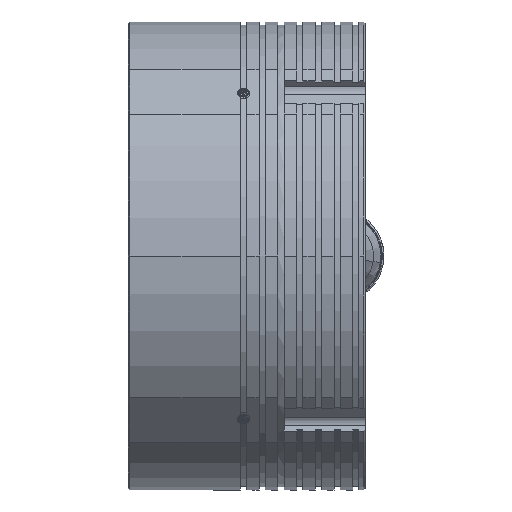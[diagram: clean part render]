
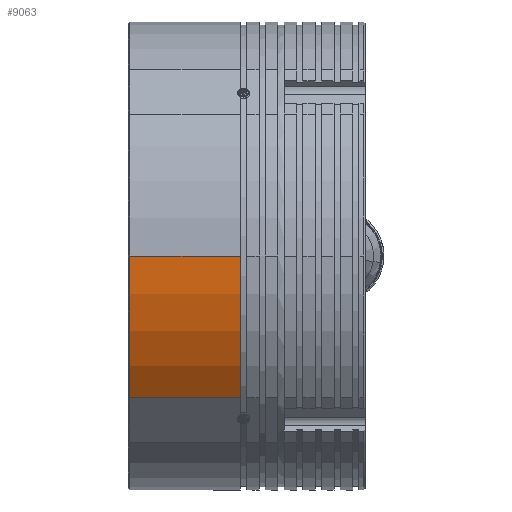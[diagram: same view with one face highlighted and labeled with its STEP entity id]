
A CAD part, left-side view. The second image highlights one B-rep face of the part: STEP entity #9063.
In plain terms, the highlighted cylindrical face has radius 37.5 mm (diameter 75 mm), a partial arc.
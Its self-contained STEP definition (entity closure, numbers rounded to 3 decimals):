
#900 = CIRCLE ( 'NONE', #22142, 37.5 ) ;
#6968 = ORIENTED_EDGE ( 'NONE', *, *, #49364, .T. ) ;
#7760 = CARTESIAN_POINT ( 'NONE',  ( 0., 5., 0. ) ) ;
#8956 = VERTEX_POINT ( 'NONE', #17940 ) ;
#9063 = ADVANCED_FACE ( 'NONE', ( #55355 ), #80366, .T. ) ;
#12047 = CARTESIAN_POINT ( 'NONE',  ( 0., 0., 0. ) ) ;
#14825 = CARTESIAN_POINT ( 'NONE',  ( -37.5, 5., 0. ) ) ;
#15048 = DIRECTION ( 'NONE',  ( 0., 1., 0. ) ) ;
#16051 = EDGE_CURVE ( 'NONE', #8956, #68744, #47179, .T. ) ;
#17940 = CARTESIAN_POINT ( 'NONE',  ( -29.815, 5., -22.744 ) ) ;
#19583 = LINE ( 'NONE', #24993, #32149 ) ;
#22142 = AXIS2_PLACEMENT_3D ( 'NONE', #58391, #78277, #38210 ) ;
#22523 = EDGE_LOOP ( 'NONE', ( #32905, #25544, #53436, #6968 ) ) ;
#24993 = CARTESIAN_POINT ( 'NONE',  ( -37.5, 0., 0. ) ) ;
#25544 = ORIENTED_EDGE ( 'NONE', *, *, #70072, .T. ) ;
#28305 = CARTESIAN_POINT ( 'NONE',  ( -37.5, 22.75, 0. ) ) ;
#32149 = VECTOR ( 'NONE', #51867, 1000. ) ;
#32905 = ORIENTED_EDGE ( 'NONE', *, *, #16051, .T. ) ;
#38210 = DIRECTION ( 'NONE',  ( -1., 0., 0. ) ) ;
#40433 = VERTEX_POINT ( 'NONE', #28305 ) ;
#45949 = DIRECTION ( 'NONE',  ( 0., -1., 0. ) ) ;
#47179 = CIRCLE ( 'NONE', #74098, 37.5 ) ;
#49364 = EDGE_CURVE ( 'NONE', #62692, #8956, #71668, .T. ) ;
#51867 = DIRECTION ( 'NONE',  ( 0., 1., 0. ) ) ;
#53436 = ORIENTED_EDGE ( 'NONE', *, *, #80478, .T. ) ;
#55355 = FACE_OUTER_BOUND ( 'NONE', #22523, .T. ) ;
#58391 = CARTESIAN_POINT ( 'NONE',  ( 0., 22.75, 0. ) ) ;
#59422 = CARTESIAN_POINT ( 'NONE',  ( -29.815, 23., -22.744 ) ) ;
#60093 = DIRECTION ( 'NONE',  ( 0., 1., 0. ) ) ;
#62692 = VERTEX_POINT ( 'NONE', #71817 ) ;
#68744 = VERTEX_POINT ( 'NONE', #14825 ) ;
#68946 = DIRECTION ( 'NONE',  ( 0., 0., 1. ) ) ;
#70072 = EDGE_CURVE ( 'NONE', #68744, #40433, #19583, .T. ) ;
#71668 = LINE ( 'NONE', #59422, #82117 ) ;
#71817 = CARTESIAN_POINT ( 'NONE',  ( -29.815, 22.75, -22.744 ) ) ;
#74098 = AXIS2_PLACEMENT_3D ( 'NONE', #7760, #15048, #68946 ) ;
#77152 = AXIS2_PLACEMENT_3D ( 'NONE', #12047, #60093, #79126 ) ;
#78277 = DIRECTION ( 'NONE',  ( 0., -1., 0. ) ) ;
#79126 = DIRECTION ( 'NONE',  ( -1., 0., 0. ) ) ;
#80366 = CYLINDRICAL_SURFACE ( 'NONE', #77152, 37.5 ) ;
#80478 = EDGE_CURVE ( 'NONE', #40433, #62692, #900, .T. ) ;
#82117 = VECTOR ( 'NONE', #45949, 1000. ) ;
